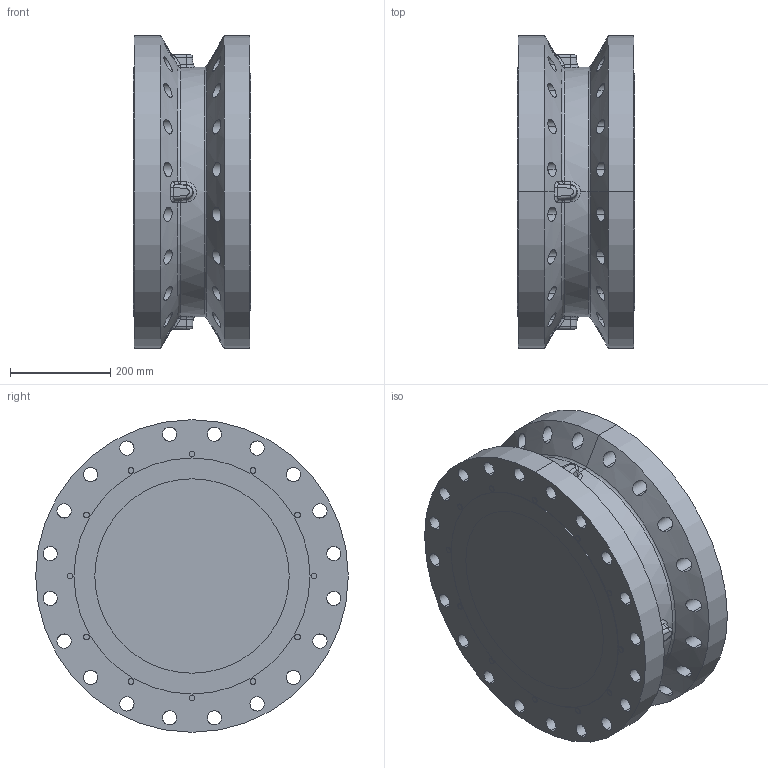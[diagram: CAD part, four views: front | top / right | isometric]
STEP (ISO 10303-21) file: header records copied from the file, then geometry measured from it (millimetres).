
FILE_DESCRIPTION (( 'STEP AP203' ), '1' );
FILE_NAME ('TLW 16_300.STEP', '2018-04-05T19:37:57', ( '' ), ( '' ), 'SwSTEP 2.0', 'SolidWorks 2017', '' );
FILE_SCHEMA (( 'CONFIG_CONTROL_DESIGN' ));
Length unit declared in the file: inch
Products named in the file (1): TLW 16_300
Bounding box: 233.3 x 622.3 x 622.3 mm (x, y, z)
Volume: 58847905.1 mm3; surface area: 1340844.9 mm2
Topology: 1 solids, 1 shells, 234 faces, 564 edges, 348 vertices
Faces by surface type: cylinder 122, cone 32, bspline 32, plane 30, torus 10, sphere 8
Entity records: 13004 total; most frequent: CARTESIAN_POINT 7546, ORIENTED_EDGE 1128, DIRECTION 1072, EDGE_CURVE 564, AXIS2_PLACEMENT_3D 453, VERTEX_POINT 348, EDGE_LOOP 330, CIRCLE 250
